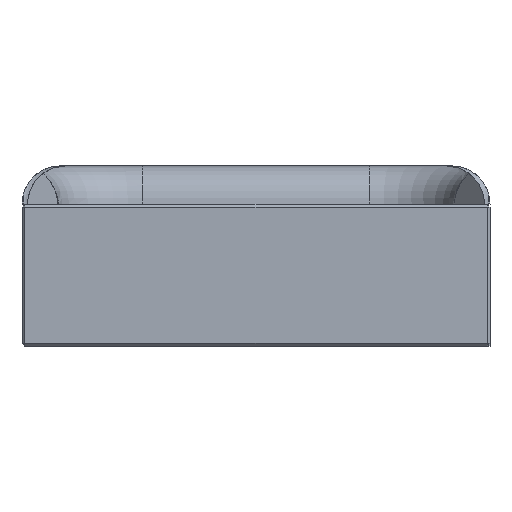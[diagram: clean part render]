
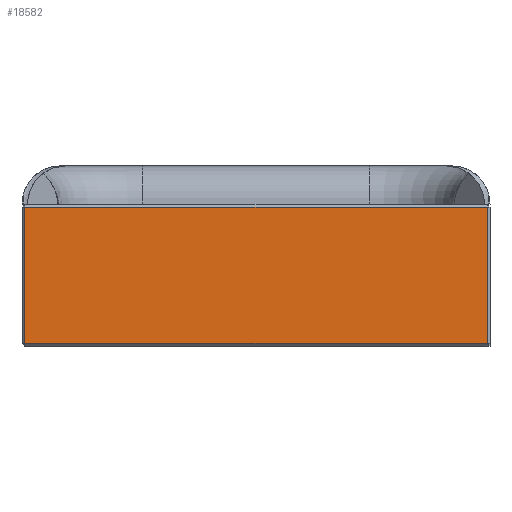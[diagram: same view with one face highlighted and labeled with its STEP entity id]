
A CAD part, left-side view. The second image highlights one B-rep face of the part: STEP entity #18582.
In plain terms, the highlighted planar face has unit normal (-1, 0, 0).
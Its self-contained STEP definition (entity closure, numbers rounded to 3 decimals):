
#116 = EDGE_CURVE ( 'NONE', #14981, #21054, #19065, .T. ) ;
#179 = EDGE_CURVE ( 'NONE', #5869, #22227, #8396, .T. ) ;
#2803 = CARTESIAN_POINT ( 'NONE',  ( -55., -16.3, 4.8 ) ) ;
#3688 = ORIENTED_EDGE ( 'NONE', *, *, #28885, .T. ) ;
#5282 = VECTOR ( 'NONE', #26276, 1000. ) ;
#5869 = VERTEX_POINT ( 'NONE', #14409 ) ;
#6295 = DIRECTION ( 'NONE',  ( 0., 0., 1. ) ) ;
#6645 = ORIENTED_EDGE ( 'NONE', *, *, #9968, .T. ) ;
#7331 = DIRECTION ( 'NONE',  ( 1., 0., 0. ) ) ;
#8396 = LINE ( 'NONE', #28889, #24560 ) ;
#9824 = CARTESIAN_POINT ( 'NONE',  ( -55., 16.5, 4.8 ) ) ;
#9968 = EDGE_CURVE ( 'NONE', #22227, #14981, #28065, .T. ) ;
#10260 = ORIENTED_EDGE ( 'NONE', *, *, #116, .T. ) ;
#12134 = AXIS2_PLACEMENT_3D ( 'NONE', #27812, #7331, #16441 ) ;
#12338 = DIRECTION ( 'NONE',  ( 0., 0., -1. ) ) ;
#14187 = CARTESIAN_POINT ( 'NONE',  ( -55., -16.5, -4.8 ) ) ;
#14197 = PLANE ( 'NONE',  #12134 ) ;
#14409 = CARTESIAN_POINT ( 'NONE',  ( -55., -16.3, -4.8 ) ) ;
#14981 = VERTEX_POINT ( 'NONE', #15392 ) ;
#15392 = CARTESIAN_POINT ( 'NONE',  ( -55., 16.3, 4.8 ) ) ;
#16290 = CARTESIAN_POINT ( 'NONE',  ( -55., 16.3, -4.8 ) ) ;
#16428 = LINE ( 'NONE', #14187, #27206 ) ;
#16441 = DIRECTION ( 'NONE',  ( 0., 0., -1. ) ) ;
#16510 = CARTESIAN_POINT ( 'NONE',  ( -55., 16.3, 5. ) ) ;
#16690 = EDGE_LOOP ( 'NONE', ( #6645, #10260, #3688, #22349 ) ) ;
#18582 = ADVANCED_FACE ( 'NONE', ( #27516 ), #14197, .F. ) ;
#19065 = LINE ( 'NONE', #16510, #25997 ) ;
#21054 = VERTEX_POINT ( 'NONE', #16290 ) ;
#22227 = VERTEX_POINT ( 'NONE', #2803 ) ;
#22349 = ORIENTED_EDGE ( 'NONE', *, *, #179, .T. ) ;
#24560 = VECTOR ( 'NONE', #6295, 1000. ) ;
#25264 = DIRECTION ( 'NONE',  ( 0., -1., 0. ) ) ;
#25997 = VECTOR ( 'NONE', #12338, 1000. ) ;
#26276 = DIRECTION ( 'NONE',  ( 0., 1., 0. ) ) ;
#27206 = VECTOR ( 'NONE', #25264, 1000. ) ;
#27516 = FACE_OUTER_BOUND ( 'NONE', #16690, .T. ) ;
#27812 = CARTESIAN_POINT ( 'NONE',  ( -55., 16.5, 5. ) ) ;
#28065 = LINE ( 'NONE', #9824, #5282 ) ;
#28885 = EDGE_CURVE ( 'NONE', #21054, #5869, #16428, .T. ) ;
#28889 = CARTESIAN_POINT ( 'NONE',  ( -55., -16.3, 5. ) ) ;
